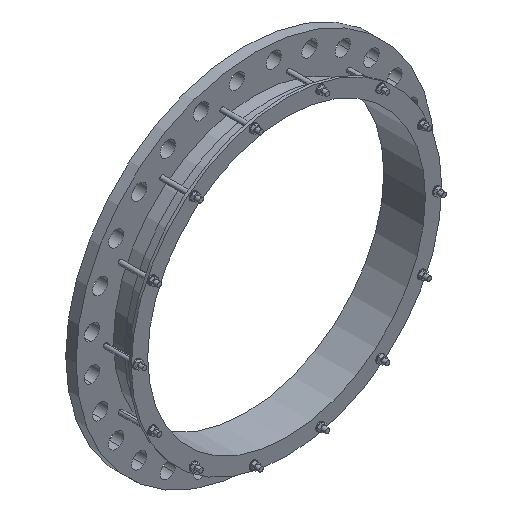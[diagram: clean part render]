
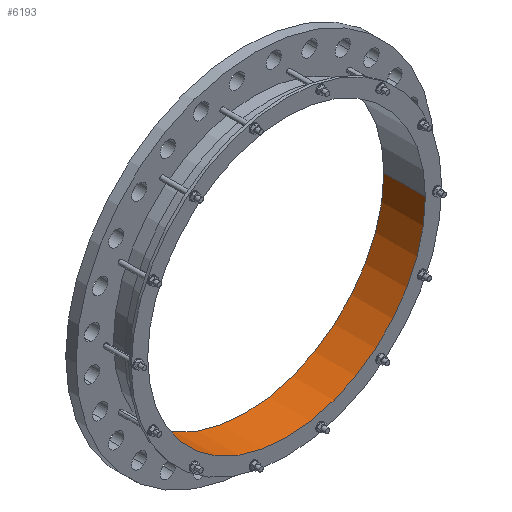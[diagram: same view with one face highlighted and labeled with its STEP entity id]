
A CAD part, isometric view. The second image highlights one B-rep face of the part: STEP entity #6193.
In plain terms, the highlighted cylindrical face has radius 511.25 mm (diameter 1022.5 mm), a partial arc.
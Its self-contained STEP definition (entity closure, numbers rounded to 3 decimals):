
#7=CARTESIAN_POINT('',(0.,38.,0.));
#8=DIRECTION('',(0.,1.,0.));
#9=DIRECTION('',(1.,0.,0.));
#10=AXIS2_PLACEMENT_3D('',#7,#8,#9);
#1686=CARTESIAN_POINT('',(0.,-115.,0.));
#1687=DIRECTION('',(0.,1.,0.));
#1688=DIRECTION('',(1.,0.,0.));
#1689=AXIS2_PLACEMENT_3D('',#1686,#1687,#1688);
#1691=DIRECTION('',(0.,1.,0.));
#1692=VECTOR('',#1691,153.);
#1693=CARTESIAN_POINT('',(511.25,-115.,0.));
#1694=LINE('',#1693,#1692);
#1695=DIRECTION('',(0.,1.,0.));
#1696=VECTOR('',#1695,153.);
#1697=CARTESIAN_POINT('',(-511.25,-115.,0.));
#1698=LINE('',#1697,#1696);
#4250=CARTESIAN_POINT('',(511.25,-115.,0.));
#4251=CARTESIAN_POINT('',(511.25,38.,0.));
#4252=VERTEX_POINT('',#4250);
#4253=VERTEX_POINT('',#4251);
#4262=CARTESIAN_POINT('',(-511.25,-115.,0.));
#4263=CARTESIAN_POINT('',(-511.25,38.,0.));
#4264=VERTEX_POINT('',#4262);
#4265=VERTEX_POINT('',#4263);
#6180=CARTESIAN_POINT('',(0.,-122.65,0.));
#6181=DIRECTION('',(0.,1.,0.));
#6182=DIRECTION('',(-1.,0.,0.));
#6183=AXIS2_PLACEMENT_3D('',#6180,#6181,#6182);
#6184=CYLINDRICAL_SURFACE('',#6183,511.25);
#6186=ORIENTED_EDGE('',*,*,#6185,.F.);
#6187=ORIENTED_EDGE('',*,*,#6091,.T.);
#6189=ORIENTED_EDGE('',*,*,#6188,.T.);
#6190=ORIENTED_EDGE('',*,*,#5223,.F.);
#6191=EDGE_LOOP('',(#6186,#6187,#6189,#6190));
#6192=FACE_OUTER_BOUND('',#6191,.F.);
#6193=ADVANCED_FACE('',(#6192),#6184,.F.);
#11=CIRCLE('',#10,511.25);
#1690=CIRCLE('',#1689,511.25);
#5223=EDGE_CURVE('',#4253,#4265,#11,.T.);
#6091=EDGE_CURVE('',#4252,#4264,#1690,.T.);
#6185=EDGE_CURVE('',#4252,#4253,#1694,.T.);
#6188=EDGE_CURVE('',#4264,#4265,#1698,.T.);
